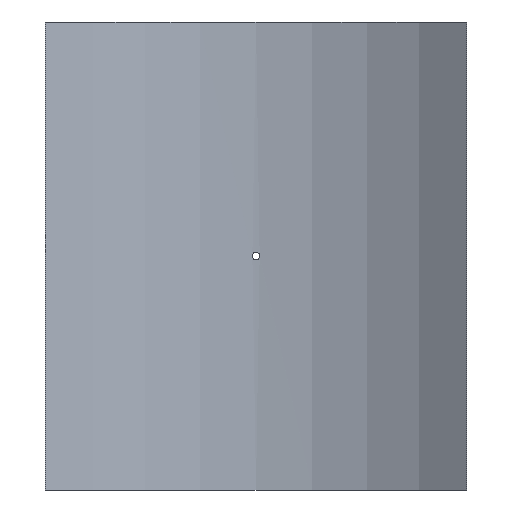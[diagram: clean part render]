
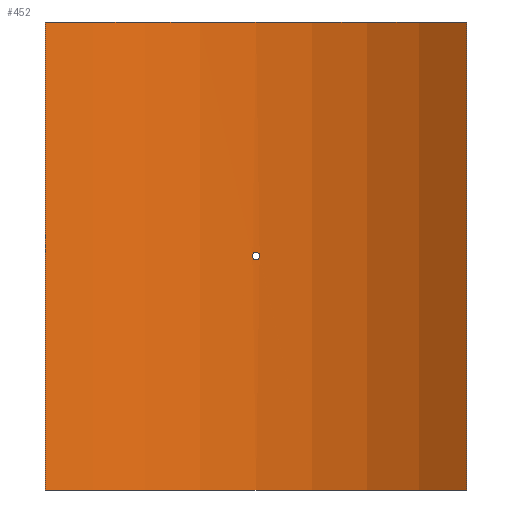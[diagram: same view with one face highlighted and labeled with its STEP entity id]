
A CAD part, front view. The second image highlights one B-rep face of the part: STEP entity #452.
In plain terms, the highlighted cylindrical face has radius 450 mm (diameter 900 mm), a partial arc.
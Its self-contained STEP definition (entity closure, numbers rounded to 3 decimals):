
#19=B_SPLINE_CURVE_WITH_KNOTS('',3,(#788,#789,#790,#791,#792,#793,#794,
#795,#796,#797,#798,#799,#800,#801,#802,#803,#804,#805,#806,#807,#808,#809,
#810,#811,#812,#813,#814,#815,#816,#817,#818,#819,#820,#821),
 .UNSPECIFIED.,.T.,.F.,(4,2,2,2,2,2,2,2,2,2,2,2,2,2,2,2,4),(0.,0.181,
0.362,0.542,0.723,0.904,
1.085,1.266,1.446,1.627,1.808,
1.989,2.17,2.351,2.531,2.712,
2.893),.UNSPECIFIED.);
#43=LINE('',#1097,#62);
#44=LINE('',#1100,#63);
#62=VECTOR('',#661,10.);
#63=VECTOR('',#664,10.);
#76=CYLINDRICAL_SURFACE('',#530,450.);
#88=FACE_BOUND('',#167,.T.);
#127=FACE_OUTER_BOUND('',#166,.T.);
#166=EDGE_LOOP('',(#405,#406,#407,#408));
#167=EDGE_LOOP('',(#409));
#201=CIRCLE('',#529,450.);
#202=CIRCLE('',#531,450.);
#219=VERTEX_POINT('',#786);
#242=VERTEX_POINT('',#1090);
#243=VERTEX_POINT('',#1092);
#244=VERTEX_POINT('',#1096);
#245=VERTEX_POINT('',#1098);
#267=EDGE_CURVE('',#219,#219,#19,.T.);
#299=EDGE_CURVE('',#242,#243,#201,.T.);
#301=EDGE_CURVE('',#244,#242,#43,.T.);
#302=EDGE_CURVE('',#245,#244,#202,.T.);
#303=EDGE_CURVE('',#245,#243,#44,.T.);
#405=ORIENTED_EDGE('',*,*,#301,.F.);
#406=ORIENTED_EDGE('',*,*,#302,.F.);
#407=ORIENTED_EDGE('',*,*,#303,.T.);
#408=ORIENTED_EDGE('',*,*,#299,.F.);
#409=ORIENTED_EDGE('',*,*,#267,.T.);
#452=ADVANCED_FACE('',(#127,#88),#76,.F.);
#529=AXIS2_PLACEMENT_3D('',#1093,#656,#657);
#530=AXIS2_PLACEMENT_3D('',#1095,#659,#660);
#531=AXIS2_PLACEMENT_3D('',#1099,#662,#663);
#656=DIRECTION('center_axis',(0.,0.,1.));
#657=DIRECTION('ref_axis',(0.611,0.792,0.));
#659=DIRECTION('center_axis',(0.,0.,1.));
#660=DIRECTION('ref_axis',(0.611,0.792,0.));
#661=DIRECTION('',(0.,0.,-1.));
#662=DIRECTION('center_axis',(0.,0.,-1.));
#663=DIRECTION('ref_axis',(0.611,0.792,0.));
#664=DIRECTION('',(0.,0.,-1.));
#786=CARTESIAN_POINT('',(4.8,449.974,0.));
#788=CARTESIAN_POINT('Ctrl Pts',(4.8,449.974,0.));
#789=CARTESIAN_POINT('Ctrl Pts',(4.8,449.974,-0.603));
#790=CARTESIAN_POINT('Ctrl Pts',(4.68,449.976,-1.246));
#791=CARTESIAN_POINT('Ctrl Pts',(4.19,449.981,-2.428));
#792=CARTESIAN_POINT('Ctrl Pts',(3.82,449.984,-2.968));
#793=CARTESIAN_POINT('Ctrl Pts',(2.968,449.99,-3.82));
#794=CARTESIAN_POINT('Ctrl Pts',(2.428,449.994,-4.19));
#795=CARTESIAN_POINT('Ctrl Pts',(1.246,449.999,-4.68));
#796=CARTESIAN_POINT('Ctrl Pts',(0.603,450.,-4.8));
#797=CARTESIAN_POINT('Ctrl Pts',(-0.603,450.,-4.8));
#798=CARTESIAN_POINT('Ctrl Pts',(-1.246,449.999,-4.68));
#799=CARTESIAN_POINT('Ctrl Pts',(-2.428,449.994,-4.19));
#800=CARTESIAN_POINT('Ctrl Pts',(-2.968,449.99,-3.82));
#801=CARTESIAN_POINT('Ctrl Pts',(-3.82,449.984,-2.968));
#802=CARTESIAN_POINT('Ctrl Pts',(-4.19,449.981,-2.428));
#803=CARTESIAN_POINT('Ctrl Pts',(-4.68,449.976,-1.246));
#804=CARTESIAN_POINT('Ctrl Pts',(-4.8,449.974,-0.603));
#805=CARTESIAN_POINT('Ctrl Pts',(-4.8,449.974,0.603));
#806=CARTESIAN_POINT('Ctrl Pts',(-4.68,449.976,1.246));
#807=CARTESIAN_POINT('Ctrl Pts',(-4.19,449.981,2.428));
#808=CARTESIAN_POINT('Ctrl Pts',(-3.82,449.984,2.968));
#809=CARTESIAN_POINT('Ctrl Pts',(-2.968,449.99,3.82));
#810=CARTESIAN_POINT('Ctrl Pts',(-2.428,449.994,4.19));
#811=CARTESIAN_POINT('Ctrl Pts',(-1.246,449.999,4.68));
#812=CARTESIAN_POINT('Ctrl Pts',(-0.603,450.,4.8));
#813=CARTESIAN_POINT('Ctrl Pts',(0.603,450.,4.8));
#814=CARTESIAN_POINT('Ctrl Pts',(1.246,449.999,4.68));
#815=CARTESIAN_POINT('Ctrl Pts',(2.428,449.994,4.19));
#816=CARTESIAN_POINT('Ctrl Pts',(2.968,449.99,3.82));
#817=CARTESIAN_POINT('Ctrl Pts',(3.82,449.984,2.968));
#818=CARTESIAN_POINT('Ctrl Pts',(4.19,449.981,2.428));
#819=CARTESIAN_POINT('Ctrl Pts',(4.68,449.976,1.246));
#820=CARTESIAN_POINT('Ctrl Pts',(4.8,449.974,0.603));
#821=CARTESIAN_POINT('Ctrl Pts',(4.8,449.974,0.));
#1090=CARTESIAN_POINT('',(275.,356.195,-305.));
#1092=CARTESIAN_POINT('',(-275.,356.195,-305.));
#1093=CARTESIAN_POINT('Origin',(0.,0.,
-305.));
#1095=CARTESIAN_POINT('Origin',(0.,0.,
0.));
#1096=CARTESIAN_POINT('',(275.,356.195,305.));
#1097=CARTESIAN_POINT('',(275.,356.195,0.));
#1098=CARTESIAN_POINT('',(-275.,356.195,305.));
#1099=CARTESIAN_POINT('Origin',(0.,0.,
305.));
#1100=CARTESIAN_POINT('',(-275.,356.195,0.));
